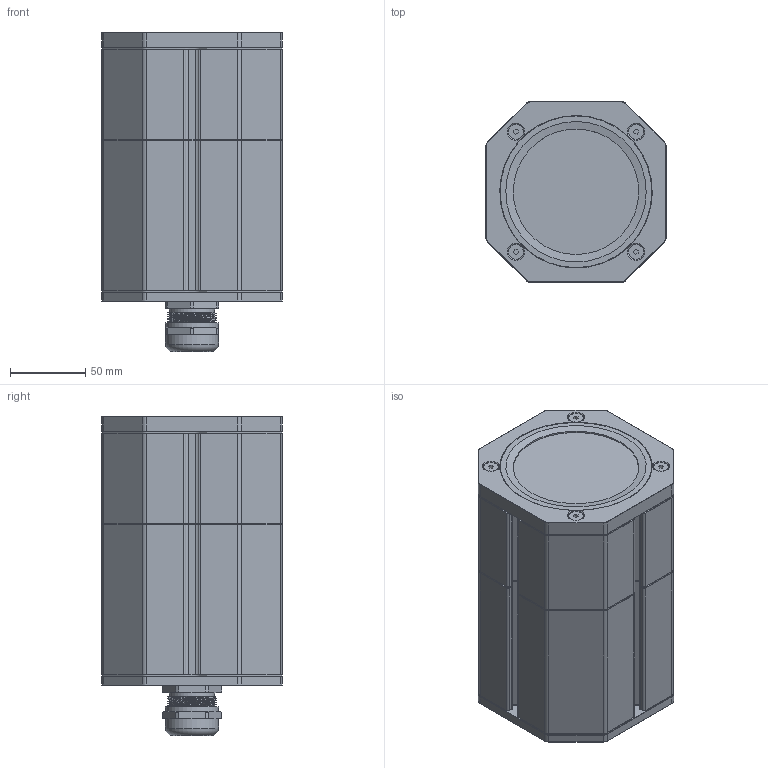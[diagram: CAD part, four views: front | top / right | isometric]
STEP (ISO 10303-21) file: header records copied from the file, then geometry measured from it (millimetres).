
FILE_DESCRIPTION(/* description */ (''),/* implementation_level */ '2;1');
FILE_NAME(/* name */ 'FG-CH87-060-100-F01-B01.stp',/* time_stamp */ '2026-04-14T15:35:21+02:00',/* author */ ('roman'),/* organization */ (''),/* preprocessor_version */ 'ST-DEVELOPER v20',/* originating_system */ 'Autodesk Inventor 2024',/* authorisation */ '');
FILE_SCHEMA (('AUTOMOTIVE_DESIGN { 1 0 10303 214 3 1 1 }'));
Length unit declared in the file: millimetre
Products named in the file (16): FG-CH87-060-100-F01-B01; SUB-CH87-MID-100-060; CH87-BDB-100; CH87-ROD-160; CH87-BDF-060; SUB-CH87-BCK-B01; CH87-CPB-RD; SKINTOP 32x1.5; Matice pruchodky M32x1,5; CH87-SL1; SUB-CH87-FRT-F01; CH87-CPF-RD; CH87-GLS; CH87-SLW; CH87-SL2; DIN 7991 - M5x20
Assembly tree (26 placements, depth 3):
  FG-CH87-060-100-F01-B01
    SUB-CH87-MID-100-060
      CH87-BDB-100
      CH87-ROD-160  x4
      CH87-SL1
      CH87-BDF-060
    SUB-CH87-BCK-B01
      CH87-CPB-RD
      SKINTOP 32x1.5
      Matice pruchodky M32x1,5
    CH87-SL1
    DIN 7991 - M5x20  x8
    SUB-CH87-FRT-F01
      CH87-CPF-RD
      CH87-GLS
      CH87-SLW
    CH87-SL2
Bounding box: 120 x 120 x 212.4 mm (x, y, z)
Volume: 720310.9 mm3; surface area: 410942.5 mm2
Topology: 23 solids, 23 shells, 1025 faces, 2750 edges, 1777 vertices
Faces by surface type: plane 459, cylinder 456, cone 98, torus 9, bspline 3
Full cylindrical faces by diameter (mm): 4 x4, 5 x8, 5.5 x4, 6 x8, 6.8 x20, 8.5 x4, 10 x8, 21.4 x1, 25 x1, 30 x2, 30.376 x1, 32 x6, 32.2 x1, 32.5 x1, 35.3 x2, 83 x1, 83.5 x1, 85.5 x3, 87 x5, 101 x1, 101.5 x1
Entity records: 26307 total; most frequent: CARTESIAN_POINT 5494, DIRECTION 4428, ORIENTED_EDGE 4134, EDGE_CURVE 2067, AXIS2_PLACEMENT_3D 1616, VERTEX_POINT 1340, LINE 1196, VECTOR 1196
